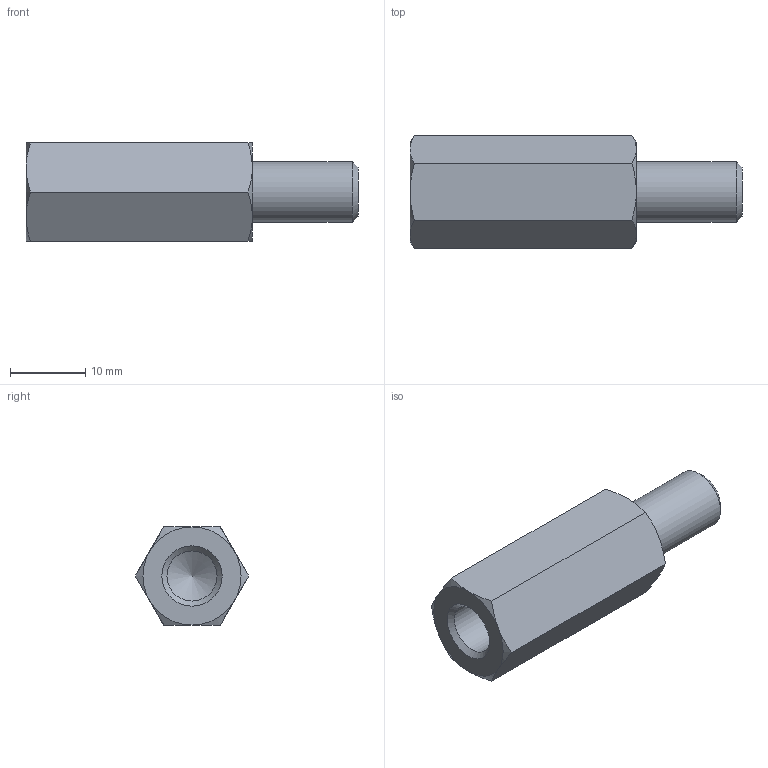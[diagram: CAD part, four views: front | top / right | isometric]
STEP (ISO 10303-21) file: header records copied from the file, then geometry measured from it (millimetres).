
FILE_DESCRIPTION( ( 'STEP AP203' ), '1' );
FILE_NAME( 'C:/Temp/Ganter_Step_05_03_2020/data/3_2/gn6220/gn6220_st/Spacer GN 6220-ST-M8-30-B.stp', '2020-03-13T05:42:50', ( 'License CC BY-ND 4.0' ), ( 'CADENAS' ), ' ', 'PARTsolutions', ' ' );
FILE_SCHEMA( ( 'CONFIG_CONTROL_DESIGN' ) );
Length unit declared in the file: millimetre
Products named in the file (1): _Spacer GN 6220-ST-M8-30-B
Bounding box: 44 x 15.01 x 13 mm (x, y, z)
Volume: 4353.6 mm3; surface area: 2389.7 mm2
Topology: 1 solids, 1 shells, 26 faces, 55 edges, 32 vertices
Faces by surface type: cone 15, plane 9, cylinder 2
Full cylindrical faces by diameter (mm): 6.647 x1, 8 x1
Entity records: 778 total; most frequent: CARTESIAN_POINT 242, DIRECTION 96, ORIENTED_EDGE 96, EDGE_CURVE 48, AXIS2_PLACEMENT_3D 45, EDGE_LOOP 32, VERTEX_POINT 31, FACE_OUTER_BOUND 28
